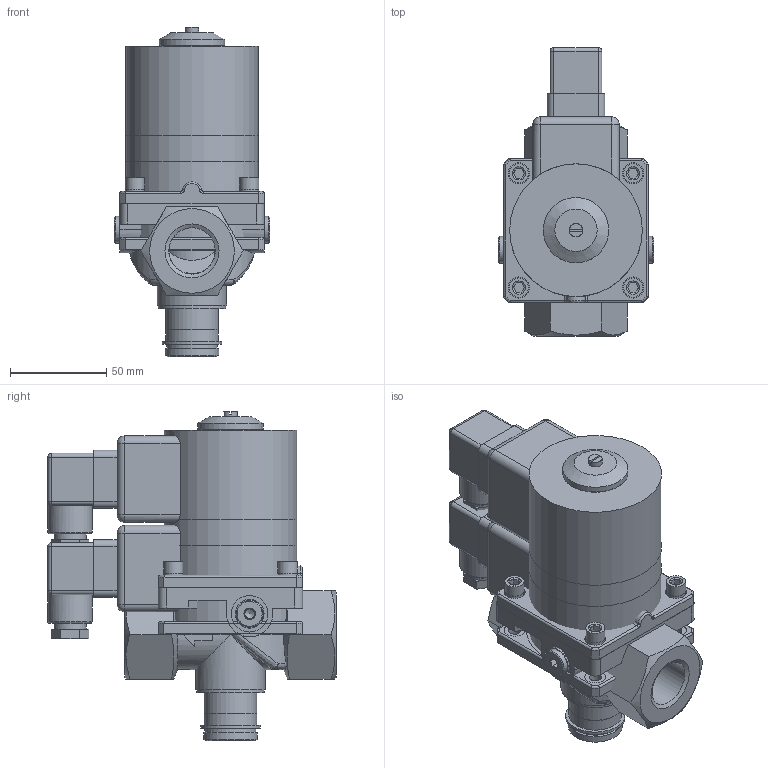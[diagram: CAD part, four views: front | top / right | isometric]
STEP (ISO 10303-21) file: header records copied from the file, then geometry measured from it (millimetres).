
FILE_DESCRIPTION( ( 'Unknown' ), '1' );
FILE_NAME( 'D:/Wyroby/Widoki gabarytowe/Zawory ZEF/ZEF_20/ZEF_20.stp', 'Unknown', ( 'Unknown' ), ( 'Unknown' ), 'XStep 1.0', 'Unknown', ' ' );
FILE_SCHEMA( ( 'CONFIG_CONTROL_DESIGN' ) );
Length unit declared in the file: millimetre
Products named in the file (40): Wb_120_01_03; Assem1; Wc_116_01_00; Wa_007_01_02; Wa_007_01_02_003k1; Wa_007_01_02_002k1; Wa_007_01_02_001k1; Wa_120_01_02_004zaci從i黎a; Wb_120_01_03_002; Wa_120_01_02_008; Wa_120_01_02_007; Wa_145_01_00_009; Wb_120_01_03_005; Wb_120_01_03_001; Wa_007_01_00_006; K-006got.; Wb_120_01_03_003; Wa_120_01_02_005; Wb_120_01_03_004zci從i黎y; Wa_137_01_01; Wa_031_01_00_011; Wa_031_01_00_009; Wb_120_01_02; podk³adka_sprê¿_zwyk³a_6; Œ-008ImbusM6x16; Wa_007_01_00_007; W-008 wkrêt m4x12; Wa_007_01_00_002; Wa_007_01_00_003彡i從i黎a14; Wa_002_01_00_005; Cewka_25
Bounding box: 81 x 150 x 171.3 mm (x, y, z)
Volume: 1336685.4 mm3; surface area: 451773.9 mm2
Topology: 122 solids, 122 shells, 1941 faces, 4125 edges, 2598 vertices
Faces by surface type: plane 915, cylinder 607, cone 259, torus 95, sphere 32, bspline 24, extrusion 9
Full cylindrical faces by diameter (mm): 1.5 x7, 1.6 x4, 2 x12, 2.1 x4, 2.5 x3, 3 x7, 3.242 x4, 4 x18, 4.1 x6, 4.2 x3, 4.5 x4, 4.917 x12, 6 x12, 6.1 x12, 6.2 x12, 6.917 x4, 7 x3, 8 x8, 8.2 x4, 8.5 x4, 8.566 x6, 9.9 x12, 10 x20, 10.5 x12, 11 x12, 12 x14, 13.2 x4, 13.5 x4, 14 x6, 15 x6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
Entity records: 19793 total; most frequent: CARTESIAN_POINT 5828, DIRECTION 2654, ORIENTED_EDGE 2004, AXIS2_PLACEMENT_3D 1146, EDGE_CURVE 1002, EDGE_LOOP 980, FACE_OUTER_BOUND 767, VERTEX_POINT 766
